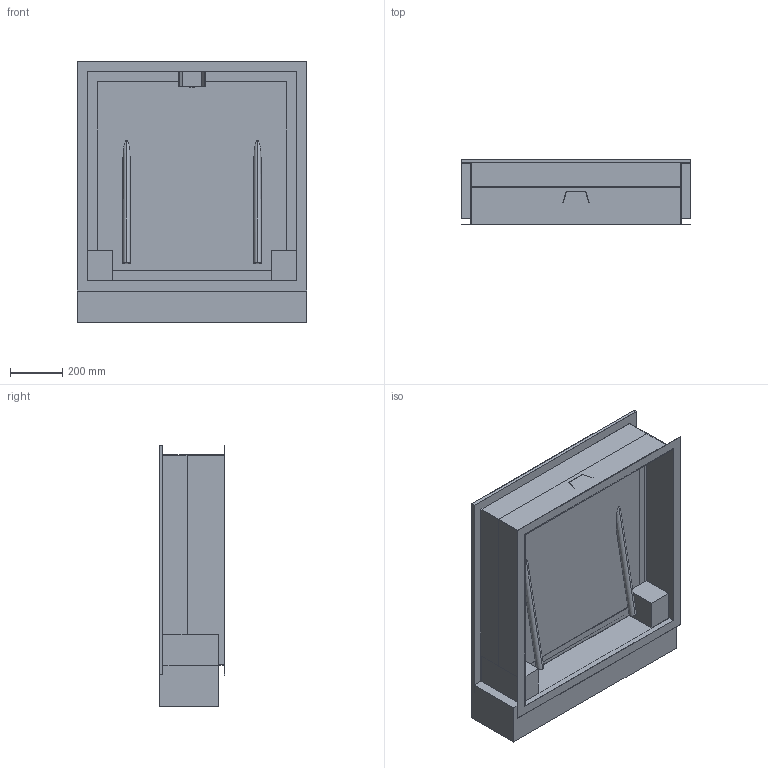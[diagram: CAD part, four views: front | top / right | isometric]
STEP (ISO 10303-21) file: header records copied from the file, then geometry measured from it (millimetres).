
FILE_DESCRIPTION((''),'2;1');
FILE_NAME('51537165','2020-10-12T13:45:20',('gm'),('HUBER SE'),'CREO PARAMETRIC BY PTC INC, 2019224','CREO PARAMETRIC BY PTC INC, 2019224','');
FILE_SCHEMA(('AUTOMOTIVE_DESIGN { 1 0 10303 214 1 1 1 1 }'));
Length unit declared in the file: millimetre
Products named in the file (1): 51537165
Bounding box: 878 x 250 x 1000 mm (x, y, z)
Volume: 100883731.1 mm3; surface area: 4363750.4 mm2
Topology: 1 solids, 1 shells, 147 faces, 406 edges, 254 vertices
Faces by surface type: plane 108, cylinder 39
Entity records: 5476 total; most frequent: CARTESIAN_POINT 929, DIRECTION 818, ORIENTED_EDGE 812, EDGE_CURVE 406, VECTOR 280, LINE 280, AXIS2_PLACEMENT_3D 269, VERTEX_POINT 254
